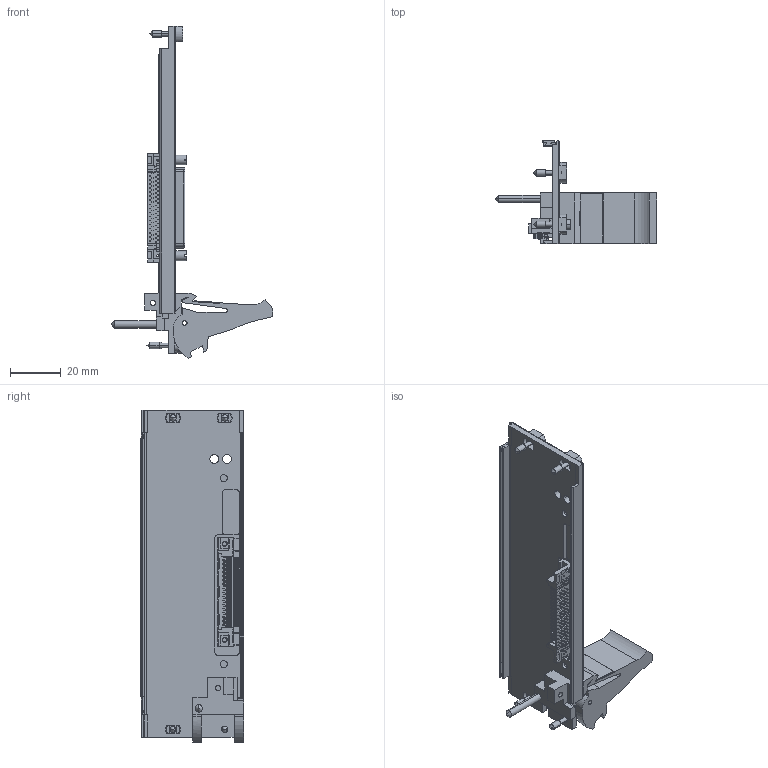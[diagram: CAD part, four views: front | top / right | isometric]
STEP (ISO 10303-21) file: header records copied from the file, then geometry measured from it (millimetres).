
FILE_DESCRIPTION((''),'2;1');
FILE_NAME('CU_PXIE-6570','2016-09-26T',('jjorden'),(''),'CREO PARAMETRIC BY PTC INC, 2015380','CREO PARAMETRIC BY PTC INC, 2015380','');
FILE_SCHEMA(('CONFIG_CONTROL_DESIGN'));
Products named in the file (1): CU_PXIE-6570
Bounding box: 63.53 x 40.58 x 130.52 mm (x, y, z)
Volume: 23636 mm3; surface area: 24371.3 mm2
Topology: 1 solids, 1 shells, 2209 faces, 6064 edges, 3996 vertices
Faces by surface type: plane 1685, cylinder 454, cone 40, torus 13, sphere 10, bspline 6, extrusion 1
Entity records: 71986 total; most frequent: CARTESIAN_POINT 14729, ORIENTED_EDGE 12108, DIRECTION 11342, EDGE_CURVE 6054, VECTOR 4888, LINE 4887, VERTEX_POINT 3996, AXIS2_PLACEMENT_3D 3227
